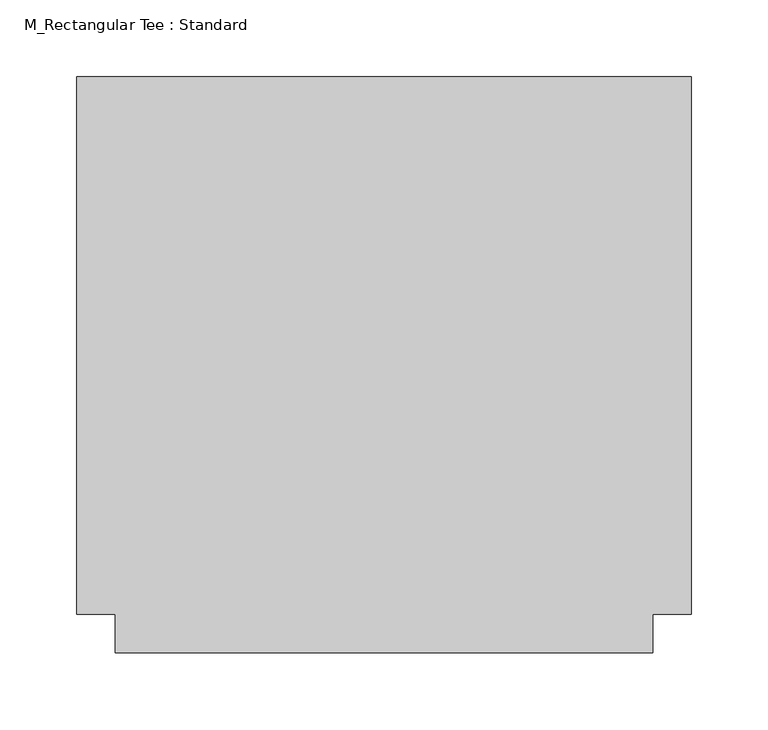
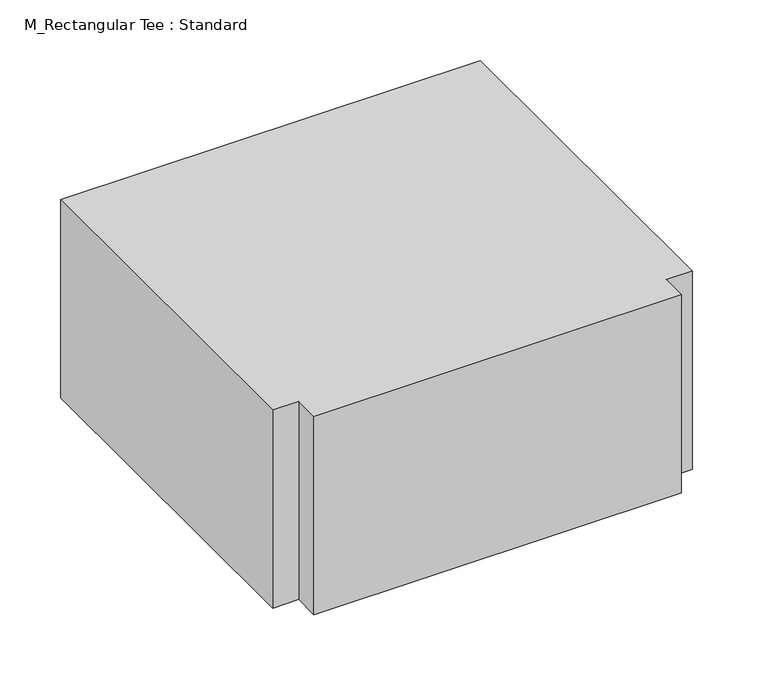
"""IFC4 building model written with IfcOpenShell, lengths in millimetres: duct fitting geometry, M_Rectangular Tee : Standard."""

import ifcopenshell
import ifcopenshell.guid

model = None  # the IFC model being written
_history = None  # IfcOwnerHistory: only IFC2X3 demands one
_inside = {}  # id of a spatial element -> (the spatial element, [elements in it])
_under = {}  # id of a project, library or spatial element -> (it, [spatial elements below it])
_declared = {}  # id of a project -> (the project, [libraries it declares])
_typed = {}  # id of a type object -> (the type object, [elements of that type])
_made_of = {}  # id of a material, layer set ... -> (it, [elements and type objects made of it])


def new_model(schema):
    """Start an empty IFC model of exactly this schema.

    Asked for "IFC4X3", IfcOpenShell would pick the latest addendum, in which some entities
    have other attributes; the version numbers below select the first issue.
    IFC2X3 requires an IfcOwnerHistory on every rooted entity: one is made here for all.
    """
    global model, _history
    if schema == "IFC4X3":
        model = ifcopenshell.file(schema_version=(4, 3, 0, 0))
    else:
        model = ifcopenshell.file(schema=schema)
    _inside.clear()
    _under.clear()
    _declared.clear()
    _typed.clear()
    _made_of.clear()
    _history = None
    if model.schema == "IFC2X3":
        org = make("IfcOrganization", Name="unknown")
        user = make(
            "IfcPersonAndOrganization",
            ThePerson=make("IfcPerson", FamilyName="unknown"),
            TheOrganization=org,
        )
        app = make(
            "IfcApplication",
            ApplicationDeveloper=org,
            Version="unknown",
            ApplicationFullName="unknown",
            ApplicationIdentifier="unknown",
        )
        _history = make(
            "IfcOwnerHistory",
            OwningUser=user,
            OwningApplication=app,
            ChangeAction="ADDED",
            CreationDate=0,
        )
    return model


def make(cls, **values):
    """One entity of the class cls with the attributes given. An attribute that is None is left unset."""
    return model.create_entity(
        cls, **{name: value for name, value in values.items() if value is not None}
    )


def rooted(cls, **values):
    """An entity with a GlobalId (a new one), such as an element, a storey or a relation."""
    return make(cls, GlobalId=ifcopenshell.guid.new(), OwnerHistory=_history, **values)


def si_unit(unit_type, name, prefix=None):
    """IfcSIUnit, for example si_unit("LENGTHUNIT", "METRE", prefix="MILLI")."""
    return make("IfcSIUnit", UnitType=unit_type, Prefix=prefix, Name=name)


def assignment(units):
    """IfcUnitAssignment: the units of a project."""
    return None if units is None else make("IfcUnitAssignment", Units=units)


def point(xyz):
    """IfcCartesianPoint."""
    return None if xyz is None else make("IfcCartesianPoint", Coordinates=xyz)


def direction(xyz):
    """IfcDirection."""
    return None if xyz is None else make("IfcDirection", DirectionRatios=xyz)


def frame(location, z_axis=None, x_axis=None):
    """IfcAxis2Placement3D, a coordinate frame: its origin and axes. An axis left out is left unset."""
    return make(
        "IfcAxis2Placement3D",
        Location=point(location),
        Axis=direction(z_axis),
        RefDirection=direction(x_axis),
    )


def origin():
    """The frame at (0, 0, 0) with its axes left unset."""
    return frame((0.0, 0.0, 0.0))


def place(relative_to, where):
    """IfcLocalPlacement: puts the frame where relative to a parent placement (None: the world)."""
    return make(
        "IfcLocalPlacement", PlacementRelTo=relative_to, RelativePlacement=where
    )


def context(
    kind, dimensions, precision=None, world=None, true_north=None, identifier=None
):
    """IfcGeometricRepresentationContext, for example the 3D "Model" context."""
    return make(
        "IfcGeometricRepresentationContext",
        ContextIdentifier=identifier,
        ContextType=kind,
        CoordinateSpaceDimension=dimensions,
        Precision=precision,
        WorldCoordinateSystem=world,
        TrueNorth=true_north,
    )


def project(units=None, contexts=None):
    """IfcProject with its units and contexts."""
    return rooted(
        "IfcProject",
        Name="project",
        RepresentationContexts=contexts,
        UnitsInContext=assignment(units),
    )


def spatial(cls, under=None, at=None, **own):
    """A site, building, storey or space (cls), placed at a placement, below another one or the project."""
    s = rooted(cls, ObjectPlacement=at, **own)
    if under is not None:
        _under.setdefault(under.id(), (under, []))[1].append(s)
    return s


def polyline(points):
    """IfcPolyline through the points."""
    return make("IfcPolyline", Points=[point(p) for p in points])


def outline(outer, holes=None, kind="AREA"):
    """IfcArbitraryClosedProfileDef: a profile drawn as a closed curve; with holes, ...WithVoids."""
    if holes is None:
        return make("IfcArbitraryClosedProfileDef", ProfileType=kind, OuterCurve=outer)
    return make(
        "IfcArbitraryProfileDefWithVoids",
        ProfileType=kind,
        OuterCurve=outer,
        InnerCurves=holes,
    )


def extrude(swept, where, along, depth):
    """IfcExtrudedAreaSolid: the profile swept, set in the frame where, extruded along a direction by depth."""
    return make(
        "IfcExtrudedAreaSolid",
        SweptArea=swept,
        Position=where,
        ExtrudedDirection=direction(along),
        Depth=depth,
    )


def shape(context_of_items, identifier, shape_type, items):
    """IfcShapeRepresentation: the items that make up one representation, for example the "Body"."""
    return make(
        "IfcShapeRepresentation",
        ContextOfItems=context_of_items,
        RepresentationIdentifier=identifier,
        RepresentationType=shape_type,
        Items=items,
    )


def source(mapping_origin, context_of_items, identifier, shape_type, items):
    """IfcRepresentationMap: a shape defined once, which mapped items show again and again."""
    return make(
        "IfcRepresentationMap",
        MappingOrigin=mapping_origin,
        MappedRepresentation=shape(context_of_items, identifier, shape_type, items),
    )


def transform(
    local_origin,
    x_axis=None,
    y_axis=None,
    z_axis=None,
    scale=None,
    scale2=None,
    scale3=None,
    uniform=True,
):
    """IfcCartesianTransformationOperator3D, or its non-uniform kind. x_axis, y_axis, z_axis: its Axis1, 2, 3."""
    if uniform:
        return make(
            "IfcCartesianTransformationOperator3D",
            Axis1=direction(x_axis),
            Axis2=direction(y_axis),
            LocalOrigin=point(local_origin),
            Scale=scale,
            Axis3=direction(z_axis),
        )
    return make(
        "IfcCartesianTransformationOperator3DnonUniform",
        Axis1=direction(x_axis),
        Axis2=direction(y_axis),
        LocalOrigin=point(local_origin),
        Scale=scale,
        Axis3=direction(z_axis),
        Scale2=scale2,
        Scale3=scale3,
    )


def mapped(mapping_source, mapping_target):
    """IfcMappedItem: shows the shape of a source again, moved by a transform."""
    return make(
        "IfcMappedItem", MappingSource=mapping_source, MappingTarget=mapping_target
    )


def made_of(thing, what):
    """Note that an element or type object is made of a material, layer set ...; save() writes the relation."""
    if what is not None:
        _made_of.setdefault(what.id(), (what, []))[1].append(thing)
    return thing


def element(
    cls,
    number,
    at=None,
    inside=None,
    cuts=None,
    type_object=None,
    material=None,
    context=None,
    identifier="Body",
    shape_type=None,
    held_by="IfcProductDefinitionShape",
    body=None,
    shapes=None,
    **own,
):
    """One element of the class cls, such as IfcWall. Its Tag is "e" and its number.

    at: its placement. inside: the storey or other place that contains it. cuts: it is an
    opening in that element (IfcRelVoidsElement). A single representation is given by context,
    identifier, shape_type and body (its items); several are given by shapes. held_by: the class
    of the entity that holds the representations. save() writes the other relations.
    """
    e = rooted(cls, Tag="e%d" % number, ObjectPlacement=at, **own)
    if body is not None:
        shapes = [shape(context, identifier, shape_type, body)]
    if shapes is not None:
        e.Representation = make(held_by, Representations=shapes)
    if inside is not None:
        _inside.setdefault(inside.id(), (inside, []))[1].append(e)
    if cuts is not None:
        rooted(
            "IfcRelVoidsElement", RelatingBuildingElement=cuts, RelatedOpeningElement=e
        )
    if type_object is not None:
        _typed.setdefault(type_object.id(), (type_object, []))[1].append(e)
    return made_of(e, material)


def aggregate(whole, parts):
    """IfcRelAggregates: a whole, such as a stair, and the parts it consists of."""
    return rooted("IfcRelAggregates", RelatingObject=whole, RelatedObjects=parts)


def save(model, path):
    """Write the relations noted so far, then the file.

    IfcRelAggregates (storeys below a building ...), IfcRelContainedInSpatialStructure (elements
    in a storey), IfcRelDefinesByType, IfcRelAssociatesMaterial and IfcRelDeclares: one each for
    every whole, place, type object, material and project.
    """
    for whole, parts in _under.values():
        aggregate(whole, parts)
    for where, things in _inside.values():
        rooted(
            "IfcRelContainedInSpatialStructure",
            RelatedElements=things,
            RelatingStructure=where,
        )
    for kind, things in _typed.values():
        rooted("IfcRelDefinesByType", RelatedObjects=things, RelatingType=kind)
    for what, things in _made_of.values():
        rooted("IfcRelAssociatesMaterial", RelatedObjects=things, RelatingMaterial=what)
    for by, libraries in _declared.values():
        rooted("IfcRelDeclares", RelatingContext=by, RelatedDefinitions=libraries)
    model.write(path)


def m_rectangular_tee_standard_b38aa9c5(model_context):
    return source(origin(), model_context, "Body", "SweptSolid", [
        extrude(outline(polyline([(-200.0, -175.0), (-200.0, 175.0), (200.0, 175.0), (200.0, -175.0), (175.0, -175.0), (175.0, -200.0), (-175.0, -200.0), (-175.0, -175.0), (-200.0, -175.0)])), frame((0.0, 0.0, -100.0), z_axis=(0.0, 0.0, 1.0), x_axis=(1.0, 0.0, 0.0)), (0.0, 0.0, 1.0), 200.0),
    ])


if __name__ == "__main__":
    model = new_model("IFC4")
    model_context = context("Model", 3, world=origin())
    ifc_project = project(units=[si_unit("LENGTHUNIT", "METRE", prefix="MILLI")], contexts=[model_context])
    site = spatial("IfcSite", under=ifc_project)
    building = spatial("IfcBuilding", under=site)
    placement = place(None, origin())
    m_rectangular_tee_standard_shape = m_rectangular_tee_standard_b38aa9c5(model_context)
    element("IfcDuctFitting", 1, ObjectType="M_Rectangular Tee : Standard", at=placement, inside=building, context=model_context, shape_type="MappedRepresentation", body=[
        mapped(m_rectangular_tee_standard_shape, transform((0.0, 0.0, 0.0), x_axis=(1.0, 0.0, 0.0), y_axis=(0.0, 1.0, 0.0), z_axis=(0.0, 0.0, 1.0))),
    ])
    save(model, "model.ifc")
